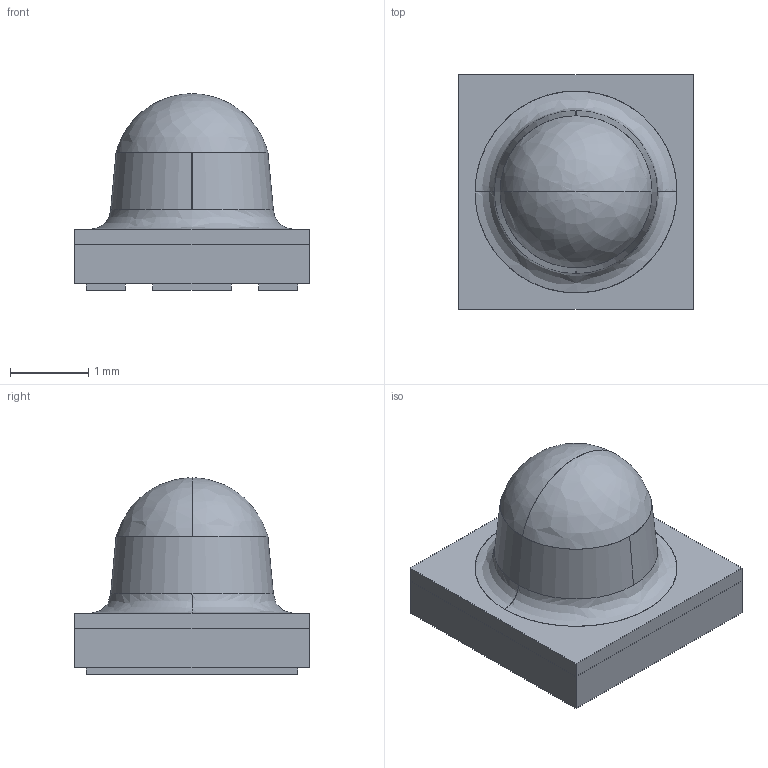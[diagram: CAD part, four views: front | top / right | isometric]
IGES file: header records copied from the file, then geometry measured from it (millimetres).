
Start section: SolidWorks IGES file using analytic representation for surfaces
Global section: file name: K:\02.じン祘\20.瓜郎戈畐\08.3D瓜郎\02.STL\01.Ceramic 3030\EOH-ESFNCEA-KL\EOH-ESFNCEA-KL_A00.IGS; native system: SolidWorks 2012; preprocessor: SolidWorks 2012; author: JackChen; date: 170629.192634; units: millimetre
Bounding box: 3 x 3 x 2.51 mm (x, y, z)
Surface area: 55.3 mm2 (no closed solid volume)
Topology: 0 solids, 0 shells, 34 faces, 182 edges, 180 vertices
Faces by surface type: bspline 32, revolution 2
